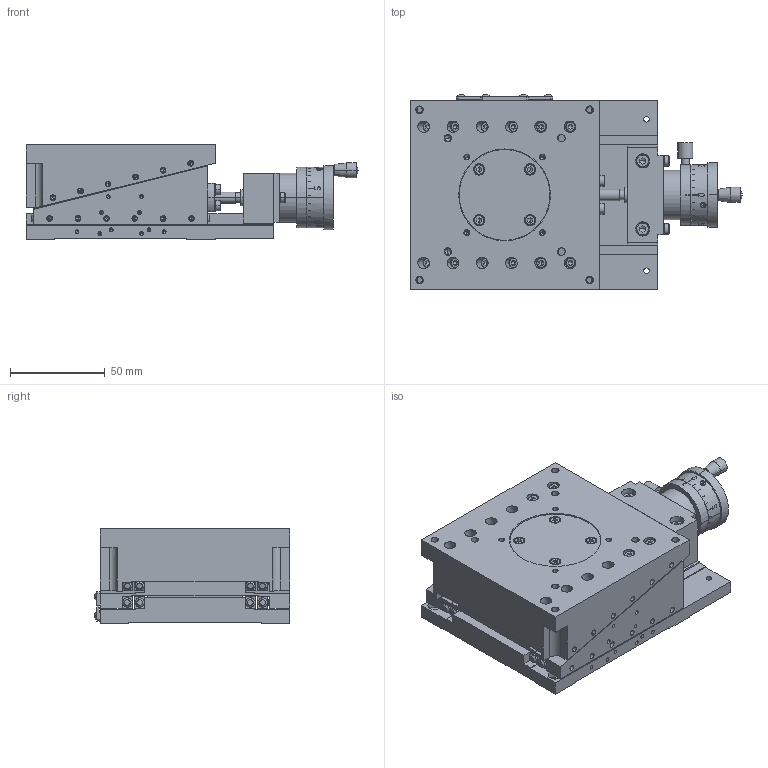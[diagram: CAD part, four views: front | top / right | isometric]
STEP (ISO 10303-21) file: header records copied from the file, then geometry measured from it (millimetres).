
FILE_DESCRIPTION (( 'STEP AP203' ), '1' );
FILE_NAME ('ZM10A-C6C-R.STEP', '2015-05-21T09:23:50', ( '' ), ( '' ), 'SwSTEP 2.0', 'SolidWorks 2011', '' );
FILE_SCHEMA (( 'CONFIG_CONTROL_DESIGN' ));
Length unit declared in the file: millimetre
Products named in the file (5): ZM10A-C6C-R; wedge-6; handle-3; base-40; table-31
Assembly tree (4 placements, depth 2):
  ZM10A-C6C-R
    table-31
    base-40
    handle-3
    wedge-6
Bounding box: 175.47 x 103.18 x 50 mm (x, y, z)
Volume: 484311.7 mm3; surface area: 131152.8 mm2
Topology: 4 solids, 87 shells, 3034 faces, 6838 edges, 4023 vertices
Faces by surface type: plane 1523, cylinder 891, cone 607, sphere 13
Entity records: 83455 total; most frequent: DIRECTION 15148, CARTESIAN_POINT 14804, ORIENTED_EDGE 13238, EDGE_CURVE 6619, AXIS2_PLACEMENT_3D 5677, VERTEX_POINT 4021, VECTOR 3794, LINE 3794
